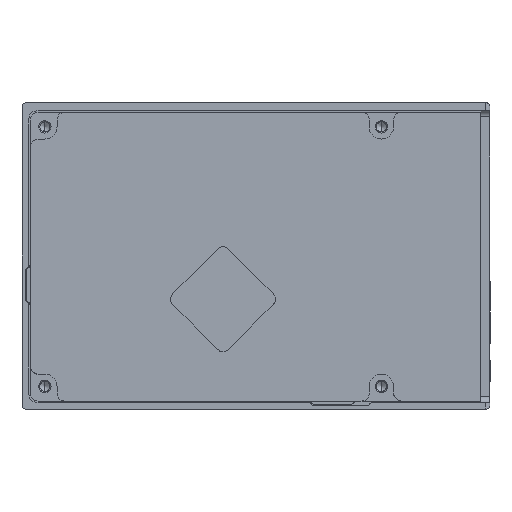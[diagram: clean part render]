
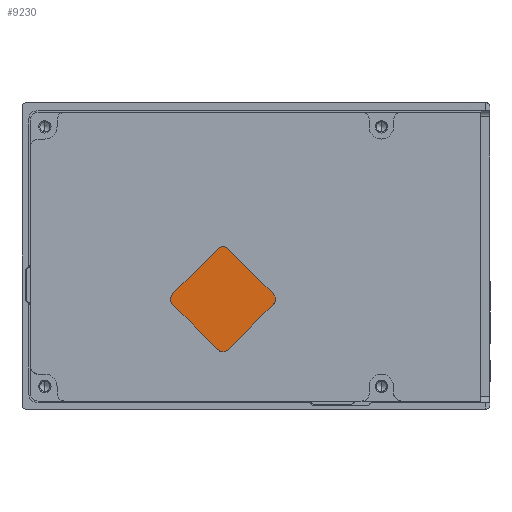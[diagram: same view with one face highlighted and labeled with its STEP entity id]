
A CAD part, front view. The second image highlights one B-rep face of the part: STEP entity #9230.
In plain terms, the highlighted planar face has unit normal (0, -1, 0).
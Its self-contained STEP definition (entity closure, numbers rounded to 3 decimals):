
#127 = CARTESIAN_POINT ( 'NONE',  ( 47.944, -26.601, -58.94 ) ) ;
#420 = CARTESIAN_POINT ( 'NONE',  ( 47.426, -26.601, -33.059 ) ) ;
#484 = ORIENTED_EDGE ( 'NONE', *, *, #5042, .F. ) ;
#541 = CARTESIAN_POINT ( 'NONE',  ( 34.486, -26.601, -46.518 ) ) ;
#621 = CARTESIAN_POINT ( 'NONE',  ( 31.012, -26.601, -43.323 ) ) ;
#651 = CARTESIAN_POINT ( 'NONE',  ( 34.486, -26.601, -46. ) ) ;
#699 = CARTESIAN_POINT ( 'NONE',  ( 34.486, -26.601, -45.482 ) ) ;
#827 = CARTESIAN_POINT ( 'NONE',  ( 46.908, -26.601, -33.059 ) ) ;
#866 = VERTEX_POINT ( 'NONE', #420 ) ;
#884 = DIRECTION ( 'NONE',  ( -0.707, 0., 0.707 ) ) ;
#1051 = ORIENTED_EDGE ( 'NONE', *, *, #8474, .F. ) ;
#1121 = CARTESIAN_POINT ( 'NONE',  ( 47.426, -26.601, -58.94 ) ) ;
#1126 = VERTEX_POINT ( 'NONE', #5580 ) ;
#1214 = AXIS2_PLACEMENT_3D ( 'NONE', #3669, #10366, #2763 ) ;
#1333 = CARTESIAN_POINT ( 'NONE',  ( 47.944, -26.601, -33.059 ) ) ;
#1354 = CARTESIAN_POINT ( 'NONE',  ( 46.427, -26.601, -58.738 ) ) ;
#1496 = CARTESIAN_POINT ( 'NONE',  ( 47.426, -26.601, -33.059 ) ) ;
#1517 = CARTESIAN_POINT ( 'NONE',  ( 46.051, -26.601, -58.362 ) ) ;
#1707 = CARTESIAN_POINT ( 'NONE',  ( 34.486, -26.601, -46. ) ) ;
#1762 = CARTESIAN_POINT ( 'NONE',  ( 46.051, -26.601, -33.638 ) ) ;
#2222 = CARTESIAN_POINT ( 'NONE',  ( 48.802, -26.601, -33.638 ) ) ;
#2455 = VERTEX_POINT ( 'NONE', #9812 ) ;
#2484 = DIRECTION ( 'NONE',  ( 0.707, 0., -0.707 ) ) ;
#2582 = CARTESIAN_POINT ( 'NONE',  ( 59.788, -26.601, -44.625 ) ) ;
#2635 = ORIENTED_EDGE ( 'NONE', *, *, #7034, .T. ) ;
#2658 = CARTESIAN_POINT ( 'NONE',  ( 60.367, -26.601, -46. ) ) ;
#2763 = DIRECTION ( 'NONE',  ( 0., 0., -1. ) ) ;
#2796 = DIRECTION ( 'NONE',  ( -0.707, 0., -0.707 ) ) ;
#2941 = CARTESIAN_POINT ( 'NONE',  ( 46.051, -26.601, -33.638 ) ) ;
#3029 = CARTESIAN_POINT ( 'NONE',  ( 46.908, -26.601, -58.94 ) ) ;
#3030 = CARTESIAN_POINT ( 'NONE',  ( 34.688, -26.601, -46.999 ) ) ;
#3035 = CARTESIAN_POINT ( 'NONE',  ( 50.104, -26.601, -29.586 ) ) ;
#3315 = EDGE_CURVE ( 'NONE', #6335, #4923, #5385, .T. ) ;
#3334 = CARTESIAN_POINT ( 'NONE',  ( 59.788, -26.601, -47.375 ) ) ;
#3576 = VERTEX_POINT ( 'NONE', #3677 ) ;
#3669 = CARTESIAN_POINT ( 'NONE',  ( 0., -26.601, 0. ) ) ;
#3671 = VERTEX_POINT ( 'NONE', #9813 ) ;
#3677 = CARTESIAN_POINT ( 'NONE',  ( 48.802, -26.601, -33.638 ) ) ;
#3889 = LINE ( 'NONE', #7786, #9502 ) ;
#4168 =( BOUNDED_CURVE ( )  B_SPLINE_CURVE ( 3, ( #8150, #3030, #541, #6618 ),
 .UNSPECIFIED., .F., .T. ) 
 B_SPLINE_CURVE_WITH_KNOTS ( ( 4, 4 ),
 ( 5.525, 6.283 ),
 .UNSPECIFIED. ) 
 CURVE ( )  GEOMETRIC_REPRESENTATION_ITEM ( )  RATIONAL_B_SPLINE_CURVE ( ( 1., 0.953, 0.953, 1. ) ) 
 REPRESENTATION_ITEM ( '' )  );
#4214 = VECTOR ( 'NONE', #2484, 1000. ) ;
#4217 = LINE ( 'NONE', #621, #4214 ) ;
#4225 = CARTESIAN_POINT ( 'NONE',  ( 60.164, -26.601, -45.001 ) ) ;
#4377 = EDGE_CURVE ( 'NONE', #1126, #5510, #3889, .T. ) ;
#4522 = ORIENTED_EDGE ( 'NONE', *, *, #4875, .T. ) ;
#4759 = CARTESIAN_POINT ( 'NONE',  ( 35.064, -26.601, -44.625 ) ) ;
#4828 = CARTESIAN_POINT ( 'NONE',  ( 35.064, -26.601, -44.625 ) ) ;
#4869 = ORIENTED_EDGE ( 'NONE', *, *, #10317, .F. ) ;
#4875 = EDGE_CURVE ( 'NONE', #7422, #8493, #10674, .T. ) ;
#4923 = VERTEX_POINT ( 'NONE', #9883 ) ;
#4926 = EDGE_CURVE ( 'NONE', #7556, #8493, #6096, .T. ) ;
#5042 = EDGE_CURVE ( 'NONE', #6709, #5510, #7211, .T. ) ;
#5385 =( BOUNDED_CURVE ( )  B_SPLINE_CURVE ( 3, ( #5779, #3029, #1354, #1517 ),
 .UNSPECIFIED., .F., .T. ) 
 B_SPLINE_CURVE_WITH_KNOTS ( ( 4, 4 ),
 ( 0., 0.758 ),
 .UNSPECIFIED. ) 
 CURVE ( )  GEOMETRIC_REPRESENTATION_ITEM ( )  RATIONAL_B_SPLINE_CURVE ( ( 1., 0.953, 0.953, 1. ) ) 
 REPRESENTATION_ITEM ( '' )  );
#5510 = VERTEX_POINT ( 'NONE', #3334 ) ;
#5580 = CARTESIAN_POINT ( 'NONE',  ( 48.802, -26.601, -58.362 ) ) ;
#5779 = CARTESIAN_POINT ( 'NONE',  ( 47.426, -26.601, -58.94 ) ) ;
#5807 = EDGE_CURVE ( 'NONE', #3671, #6709, #6466, .T. ) ;
#6096 =( BOUNDED_CURVE ( )  B_SPLINE_CURVE ( 3, ( #651, #699, #6621, #4828 ),
 .UNSPECIFIED., .F., .T. ) 
 B_SPLINE_CURVE_WITH_KNOTS ( ( 4, 4 ),
 ( 0., 0.758 ),
 .UNSPECIFIED. ) 
 CURVE ( )  GEOMETRIC_REPRESENTATION_ITEM ( )  RATIONAL_B_SPLINE_CURVE ( ( 1., 0.953, 0.953, 1. ) ) 
 REPRESENTATION_ITEM ( '' )  );
#6335 = VERTEX_POINT ( 'NONE', #7690 ) ;
#6361 = CARTESIAN_POINT ( 'NONE',  ( 47.426, -26.601, -33.059 ) ) ;
#6466 =( BOUNDED_CURVE ( )  B_SPLINE_CURVE ( 3, ( #2582, #4225, #8406, #6789 ),
 .UNSPECIFIED., .F., .T. ) 
 B_SPLINE_CURVE_WITH_KNOTS ( ( 4, 4 ),
 ( 5.525, 6.283 ),
 .UNSPECIFIED. ) 
 CURVE ( )  GEOMETRIC_REPRESENTATION_ITEM ( )  RATIONAL_B_SPLINE_CURVE ( ( 1., 0.953, 0.953, 1. ) ) 
 REPRESENTATION_ITEM ( '' )  );
#6618 = CARTESIAN_POINT ( 'NONE',  ( 34.486, -26.601, -46. ) ) ;
#6621 = CARTESIAN_POINT ( 'NONE',  ( 34.688, -26.601, -45.001 ) ) ;
#6667 = ORIENTED_EDGE ( 'NONE', *, *, #4377, .T. ) ;
#6709 = VERTEX_POINT ( 'NONE', #2658 ) ;
#6767 = CARTESIAN_POINT ( 'NONE',  ( 60.164, -26.601, -46.999 ) ) ;
#6789 = CARTESIAN_POINT ( 'NONE',  ( 60.367, -26.601, -46. ) ) ;
#6840 = CARTESIAN_POINT ( 'NONE',  ( 63.841, -26.601, -48.677 ) ) ;
#6899 = PLANE ( 'NONE',  #1214 ) ;
#7034 = EDGE_CURVE ( 'NONE', #3671, #3576, #7562, .T. ) ;
#7060 = FACE_OUTER_BOUND ( 'NONE', #9770, .T. ) ;
#7211 =( BOUNDED_CURVE ( )  B_SPLINE_CURVE ( 3, ( #10214, #9259, #6767, #8469 ),
 .UNSPECIFIED., .F., .T. ) 
 B_SPLINE_CURVE_WITH_KNOTS ( ( 4, 4 ),
 ( 0., 0.758 ),
 .UNSPECIFIED. ) 
 CURVE ( )  GEOMETRIC_REPRESENTATION_ITEM ( )  RATIONAL_B_SPLINE_CURVE ( ( 1., 0.953, 0.953, 1. ) ) 
 REPRESENTATION_ITEM ( '' )  );
#7422 = VERTEX_POINT ( 'NONE', #1762 ) ;
#7556 = VERTEX_POINT ( 'NONE', #1707 ) ;
#7562 = LINE ( 'NONE', #6840, #10315 ) ;
#7690 = CARTESIAN_POINT ( 'NONE',  ( 47.426, -26.601, -58.94 ) ) ;
#7786 = CARTESIAN_POINT ( 'NONE',  ( 44.749, -26.601, -62.414 ) ) ;
#7987 = ORIENTED_EDGE ( 'NONE', *, *, #9405, .F. ) ;
#8108 = ORIENTED_EDGE ( 'NONE', *, *, #10504, .F. ) ;
#8110 = DIRECTION ( 'NONE',  ( 0.707, 0., 0.707 ) ) ;
#8150 = CARTESIAN_POINT ( 'NONE',  ( 35.064, -26.601, -47.375 ) ) ;
#8300 = EDGE_CURVE ( 'NONE', #2455, #4923, #4217, .T. ) ;
#8406 = CARTESIAN_POINT ( 'NONE',  ( 60.367, -26.601, -45.482 ) ) ;
#8469 = CARTESIAN_POINT ( 'NONE',  ( 59.788, -26.601, -47.375 ) ) ;
#8474 = EDGE_CURVE ( 'NONE', #2455, #7556, #4168, .T. ) ;
#8493 = VERTEX_POINT ( 'NONE', #4759 ) ;
#8501 = ORIENTED_EDGE ( 'NONE', *, *, #8300, .T. ) ;
#8849 = CARTESIAN_POINT ( 'NONE',  ( 48.425, -26.601, -58.738 ) ) ;
#9077 =( BOUNDED_CURVE ( )  B_SPLINE_CURVE ( 3, ( #10531, #8849, #127, #1121 ),
 .UNSPECIFIED., .F., .T. ) 
 B_SPLINE_CURVE_WITH_KNOTS ( ( 4, 4 ),
 ( 5.525, 6.283 ),
 .UNSPECIFIED. ) 
 CURVE ( )  GEOMETRIC_REPRESENTATION_ITEM ( )  RATIONAL_B_SPLINE_CURVE ( ( 1., 0.953, 0.953, 1. ) ) 
 REPRESENTATION_ITEM ( '' )  );
#9230 = ADVANCED_FACE ( 'NONE', ( #7060 ), #6899, .T. ) ;
#9259 = CARTESIAN_POINT ( 'NONE',  ( 60.367, -26.601, -46.518 ) ) ;
#9405 = EDGE_CURVE ( 'NONE', #7422, #866, #9550, .T. ) ;
#9502 = VECTOR ( 'NONE', #8110, 1000. ) ;
#9550 =( BOUNDED_CURVE ( )  B_SPLINE_CURVE ( 3, ( #2941, #9735, #827, #1496 ),
 .UNSPECIFIED., .F., .T. ) 
 B_SPLINE_CURVE_WITH_KNOTS ( ( 4, 4 ),
 ( 5.525, 6.283 ),
 .UNSPECIFIED. ) 
 CURVE ( )  GEOMETRIC_REPRESENTATION_ITEM ( )  RATIONAL_B_SPLINE_CURVE ( ( 1., 0.953, 0.953, 1. ) ) 
 REPRESENTATION_ITEM ( '' )  );
#9700 = ORIENTED_EDGE ( 'NONE', *, *, #3315, .F. ) ;
#9708 = ORIENTED_EDGE ( 'NONE', *, *, #4926, .F. ) ;
#9735 = CARTESIAN_POINT ( 'NONE',  ( 46.427, -26.601, -33.262 ) ) ;
#9770 = EDGE_LOOP ( 'NONE', ( #6667, #484, #10133, #2635, #8108, #7987, #4522, #9708, #1051, #8501, #9700, #4869 ) ) ;
#9812 = CARTESIAN_POINT ( 'NONE',  ( 35.064, -26.601, -47.375 ) ) ;
#9813 = CARTESIAN_POINT ( 'NONE',  ( 59.788, -26.601, -44.625 ) ) ;
#9883 = CARTESIAN_POINT ( 'NONE',  ( 46.051, -26.601, -58.362 ) ) ;
#9972 = CARTESIAN_POINT ( 'NONE',  ( 48.425, -26.601, -33.262 ) ) ;
#9996 = VECTOR ( 'NONE', #2796, 1000. ) ;
#10133 = ORIENTED_EDGE ( 'NONE', *, *, #5807, .F. ) ;
#10214 = CARTESIAN_POINT ( 'NONE',  ( 60.367, -26.601, -46. ) ) ;
#10217 =( BOUNDED_CURVE ( )  B_SPLINE_CURVE ( 3, ( #6361, #1333, #9972, #2222 ),
 .UNSPECIFIED., .F., .T. ) 
 B_SPLINE_CURVE_WITH_KNOTS ( ( 4, 4 ),
 ( 0., 0.758 ),
 .UNSPECIFIED. ) 
 CURVE ( )  GEOMETRIC_REPRESENTATION_ITEM ( )  RATIONAL_B_SPLINE_CURVE ( ( 1., 0.953, 0.953, 1. ) ) 
 REPRESENTATION_ITEM ( '' )  );
#10315 = VECTOR ( 'NONE', #884, 1000. ) ;
#10317 = EDGE_CURVE ( 'NONE', #1126, #6335, #9077, .T. ) ;
#10366 = DIRECTION ( 'NONE',  ( 0., -1., 0. ) ) ;
#10504 = EDGE_CURVE ( 'NONE', #866, #3576, #10217, .T. ) ;
#10531 = CARTESIAN_POINT ( 'NONE',  ( 48.802, -26.601, -58.362 ) ) ;
#10674 = LINE ( 'NONE', #3035, #9996 ) ;
